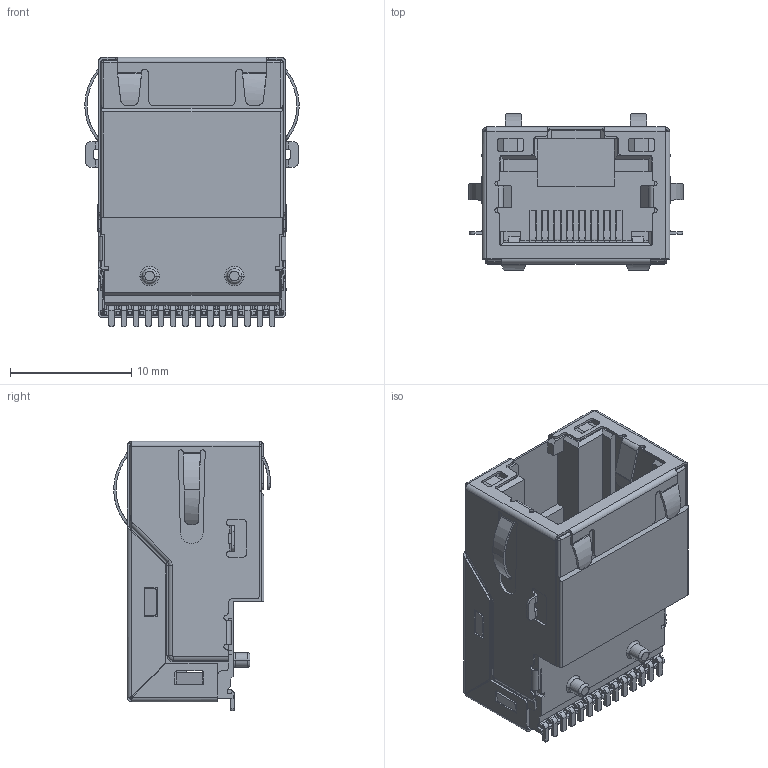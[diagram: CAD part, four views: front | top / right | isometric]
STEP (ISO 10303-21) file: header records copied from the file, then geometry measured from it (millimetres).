
FILE_DESCRIPTION((''),'2;1');
FILE_NAME('PRT0002','2023-03-30T09:13:45',('Administrator'),(''),'CREO PARAMETRIC BY PTC INC, 2019010','CREO PARAMETRIC BY PTC INC, 2019010','');
FILE_SCHEMA(('CONFIG_CONTROL_DESIGN'));
Length unit declared in the file: millimetre
Products named in the file (1): PRT0002
Bounding box: 17.7 x 12.93 x 22.22 mm (x, y, z)
Volume: 1458.9 mm3; surface area: 4948.2 mm2
Topology: 1 solids, 1 shells, 1565 faces, 4544 edges, 2916 vertices
Faces by surface type: plane 1112, cylinder 375, bspline 54, torus 18, sphere 4, extrusion 2
Entity records: 52582 total; most frequent: CARTESIAN_POINT 11359, ORIENTED_EDGE 9080, DIRECTION 7951, EDGE_CURVE 4540, VECTOR 3633, LINE 3631, VERTEX_POINT 2916, AXIS2_PLACEMENT_3D 2159
